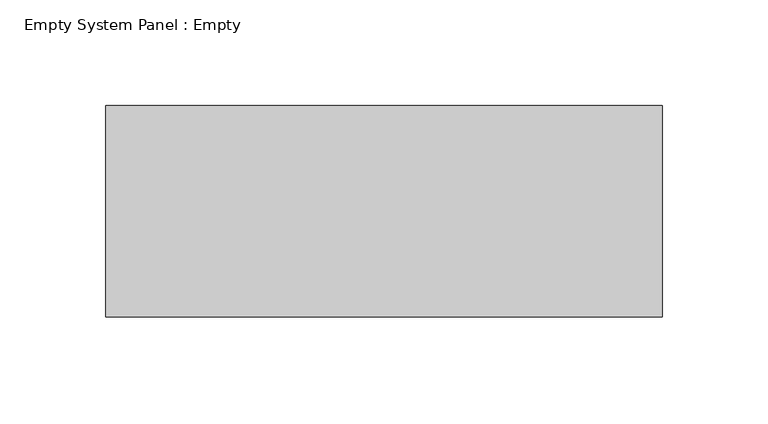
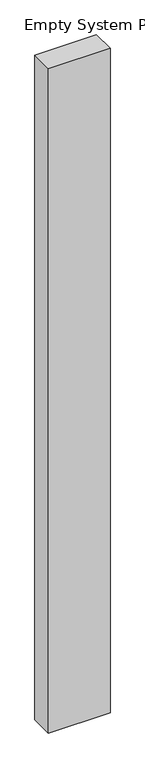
"""IFC4 building model written with IfcOpenShell, lengths in millimetres: plate geometry, Empty System Panel : Empty."""

import ifcopenshell
import ifcopenshell.guid

model = None  # the IFC model being written
_history = None  # IfcOwnerHistory: only IFC2X3 demands one
_inside = {}  # id of a spatial element -> (the spatial element, [elements in it])
_under = {}  # id of a project, library or spatial element -> (it, [spatial elements below it])
_declared = {}  # id of a project -> (the project, [libraries it declares])
_typed = {}  # id of a type object -> (the type object, [elements of that type])
_made_of = {}  # id of a material, layer set ... -> (it, [elements and type objects made of it])


def new_model(schema):
    """Start an empty IFC model of exactly this schema.

    Asked for "IFC4X3", IfcOpenShell would pick the latest addendum, in which some entities
    have other attributes; the version numbers below select the first issue.
    IFC2X3 requires an IfcOwnerHistory on every rooted entity: one is made here for all.
    """
    global model, _history
    if schema == "IFC4X3":
        model = ifcopenshell.file(schema_version=(4, 3, 0, 0))
    else:
        model = ifcopenshell.file(schema=schema)
    _inside.clear()
    _under.clear()
    _declared.clear()
    _typed.clear()
    _made_of.clear()
    _history = None
    if model.schema == "IFC2X3":
        org = make("IfcOrganization", Name="unknown")
        user = make(
            "IfcPersonAndOrganization",
            ThePerson=make("IfcPerson", FamilyName="unknown"),
            TheOrganization=org,
        )
        app = make(
            "IfcApplication",
            ApplicationDeveloper=org,
            Version="unknown",
            ApplicationFullName="unknown",
            ApplicationIdentifier="unknown",
        )
        _history = make(
            "IfcOwnerHistory",
            OwningUser=user,
            OwningApplication=app,
            ChangeAction="ADDED",
            CreationDate=0,
        )
    return model


def make(cls, **values):
    """One entity of the class cls with the attributes given. An attribute that is None is left unset."""
    return model.create_entity(
        cls, **{name: value for name, value in values.items() if value is not None}
    )


def rooted(cls, **values):
    """An entity with a GlobalId (a new one), such as an element, a storey or a relation."""
    return make(cls, GlobalId=ifcopenshell.guid.new(), OwnerHistory=_history, **values)


def si_unit(unit_type, name, prefix=None):
    """IfcSIUnit, for example si_unit("LENGTHUNIT", "METRE", prefix="MILLI")."""
    return make("IfcSIUnit", UnitType=unit_type, Prefix=prefix, Name=name)


def assignment(units):
    """IfcUnitAssignment: the units of a project."""
    return None if units is None else make("IfcUnitAssignment", Units=units)


def point(xyz):
    """IfcCartesianPoint."""
    return None if xyz is None else make("IfcCartesianPoint", Coordinates=xyz)


def direction(xyz):
    """IfcDirection."""
    return None if xyz is None else make("IfcDirection", DirectionRatios=xyz)


def frame(location, z_axis=None, x_axis=None):
    """IfcAxis2Placement3D, a coordinate frame: its origin and axes. An axis left out is left unset."""
    return make(
        "IfcAxis2Placement3D",
        Location=point(location),
        Axis=direction(z_axis),
        RefDirection=direction(x_axis),
    )


def origin():
    """The frame at (0, 0, 0) with its axes left unset."""
    return frame((0.0, 0.0, 0.0))


def origin_with_axes():
    """The frame at (0, 0, 0) with the z axis (0, 0, 1) and the x axis (1, 0, 0) written out."""
    return frame((0.0, 0.0, 0.0), z_axis=(0.0, 0.0, 1.0), x_axis=(1.0, 0.0, 0.0))


def place(relative_to, where):
    """IfcLocalPlacement: puts the frame where relative to a parent placement (None: the world)."""
    return make(
        "IfcLocalPlacement", PlacementRelTo=relative_to, RelativePlacement=where
    )


def context(
    kind, dimensions, precision=None, world=None, true_north=None, identifier=None
):
    """IfcGeometricRepresentationContext, for example the 3D "Model" context."""
    return make(
        "IfcGeometricRepresentationContext",
        ContextIdentifier=identifier,
        ContextType=kind,
        CoordinateSpaceDimension=dimensions,
        Precision=precision,
        WorldCoordinateSystem=world,
        TrueNorth=true_north,
    )


def project(units=None, contexts=None):
    """IfcProject with its units and contexts."""
    return rooted(
        "IfcProject",
        Name="project",
        RepresentationContexts=contexts,
        UnitsInContext=assignment(units),
    )


def spatial(cls, under=None, at=None, **own):
    """A site, building, storey or space (cls), placed at a placement, below another one or the project."""
    s = rooted(cls, ObjectPlacement=at, **own)
    if under is not None:
        _under.setdefault(under.id(), (under, []))[1].append(s)
    return s


def polyline(points):
    """IfcPolyline through the points."""
    return make("IfcPolyline", Points=[point(p) for p in points])


def outline(outer, holes=None, kind="AREA"):
    """IfcArbitraryClosedProfileDef: a profile drawn as a closed curve; with holes, ...WithVoids."""
    if holes is None:
        return make("IfcArbitraryClosedProfileDef", ProfileType=kind, OuterCurve=outer)
    return make(
        "IfcArbitraryProfileDefWithVoids",
        ProfileType=kind,
        OuterCurve=outer,
        InnerCurves=holes,
    )


def extrude(swept, where, along, depth):
    """IfcExtrudedAreaSolid: the profile swept, set in the frame where, extruded along a direction by depth."""
    return make(
        "IfcExtrudedAreaSolid",
        SweptArea=swept,
        Position=where,
        ExtrudedDirection=direction(along),
        Depth=depth,
    )


def shape(context_of_items, identifier, shape_type, items):
    """IfcShapeRepresentation: the items that make up one representation, for example the "Body"."""
    return make(
        "IfcShapeRepresentation",
        ContextOfItems=context_of_items,
        RepresentationIdentifier=identifier,
        RepresentationType=shape_type,
        Items=items,
    )


def source(mapping_origin, context_of_items, identifier, shape_type, items):
    """IfcRepresentationMap: a shape defined once, which mapped items show again and again."""
    return make(
        "IfcRepresentationMap",
        MappingOrigin=mapping_origin,
        MappedRepresentation=shape(context_of_items, identifier, shape_type, items),
    )


def transform(
    local_origin,
    x_axis=None,
    y_axis=None,
    z_axis=None,
    scale=None,
    scale2=None,
    scale3=None,
    uniform=True,
):
    """IfcCartesianTransformationOperator3D, or its non-uniform kind. x_axis, y_axis, z_axis: its Axis1, 2, 3."""
    if uniform:
        return make(
            "IfcCartesianTransformationOperator3D",
            Axis1=direction(x_axis),
            Axis2=direction(y_axis),
            LocalOrigin=point(local_origin),
            Scale=scale,
            Axis3=direction(z_axis),
        )
    return make(
        "IfcCartesianTransformationOperator3DnonUniform",
        Axis1=direction(x_axis),
        Axis2=direction(y_axis),
        LocalOrigin=point(local_origin),
        Scale=scale,
        Axis3=direction(z_axis),
        Scale2=scale2,
        Scale3=scale3,
    )


def mapped(mapping_source, mapping_target):
    """IfcMappedItem: shows the shape of a source again, moved by a transform."""
    return make(
        "IfcMappedItem", MappingSource=mapping_source, MappingTarget=mapping_target
    )


def made_of(thing, what):
    """Note that an element or type object is made of a material, layer set ...; save() writes the relation."""
    if what is not None:
        _made_of.setdefault(what.id(), (what, []))[1].append(thing)
    return thing


def element(
    cls,
    number,
    at=None,
    inside=None,
    cuts=None,
    type_object=None,
    material=None,
    context=None,
    identifier="Body",
    shape_type=None,
    held_by="IfcProductDefinitionShape",
    body=None,
    shapes=None,
    **own,
):
    """One element of the class cls, such as IfcWall. Its Tag is "e" and its number.

    at: its placement. inside: the storey or other place that contains it. cuts: it is an
    opening in that element (IfcRelVoidsElement). A single representation is given by context,
    identifier, shape_type and body (its items); several are given by shapes. held_by: the class
    of the entity that holds the representations. save() writes the other relations.
    """
    e = rooted(cls, Tag="e%d" % number, ObjectPlacement=at, **own)
    if body is not None:
        shapes = [shape(context, identifier, shape_type, body)]
    if shapes is not None:
        e.Representation = make(held_by, Representations=shapes)
    if inside is not None:
        _inside.setdefault(inside.id(), (inside, []))[1].append(e)
    if cuts is not None:
        rooted(
            "IfcRelVoidsElement", RelatingBuildingElement=cuts, RelatedOpeningElement=e
        )
    if type_object is not None:
        _typed.setdefault(type_object.id(), (type_object, []))[1].append(e)
    return made_of(e, material)


def aggregate(whole, parts):
    """IfcRelAggregates: a whole, such as a stair, and the parts it consists of."""
    return rooted("IfcRelAggregates", RelatingObject=whole, RelatedObjects=parts)


def save(model, path):
    """Write the relations noted so far, then the file.

    IfcRelAggregates (storeys below a building ...), IfcRelContainedInSpatialStructure (elements
    in a storey), IfcRelDefinesByType, IfcRelAssociatesMaterial and IfcRelDeclares: one each for
    every whole, place, type object, material and project.
    """
    for whole, parts in _under.values():
        aggregate(whole, parts)
    for where, things in _inside.values():
        rooted(
            "IfcRelContainedInSpatialStructure",
            RelatedElements=things,
            RelatingStructure=where,
        )
    for kind, things in _typed.values():
        rooted("IfcRelDefinesByType", RelatedObjects=things, RelatingType=kind)
    for what, things in _made_of.values():
        rooted("IfcRelAssociatesMaterial", RelatedObjects=things, RelatingMaterial=what)
    for by, libraries in _declared.values():
        rooted("IfcRelDeclares", RelatingContext=by, RelatedDefinitions=libraries)
    model.write(path)


def empty_system_panel_empty_1e353cd9(model_context):
    return source(origin(), model_context, "Body", "SweptSolid", [
        extrude(outline(polyline([(131.5, -50.0), (-131.5, -50.0), (-131.5, 50.0), (131.5, 50.0), (131.5, -50.0)])), origin_with_axes(), (0.0, 0.0, 1.0), 3000.0),
    ])


if __name__ == "__main__":
    model = new_model("IFC4")
    model_context = context("Model", 3, world=origin())
    ifc_project = project(units=[si_unit("LENGTHUNIT", "METRE", prefix="MILLI")], contexts=[model_context])
    site = spatial("IfcSite", under=ifc_project)
    building = spatial("IfcBuilding", under=site)
    placement = place(None, origin())
    empty_system_panel_empty_shape = empty_system_panel_empty_1e353cd9(model_context)
    element("IfcPlate", 1, ObjectType="Empty System Panel : Empty", at=placement, inside=building, context=model_context, shape_type="MappedRepresentation", body=[
        mapped(empty_system_panel_empty_shape, transform((0.0, 0.0, 0.0), x_axis=(1.0, 0.0, 0.0), y_axis=(0.0, 1.0, 0.0), z_axis=(0.0, 0.0, 1.0))),
    ])
    save(model, "model.ifc")
